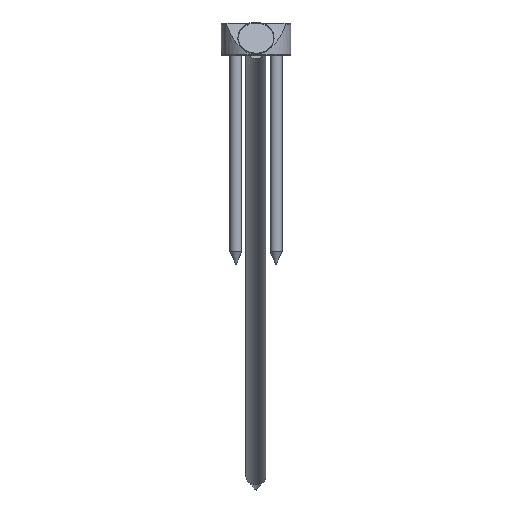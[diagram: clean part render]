
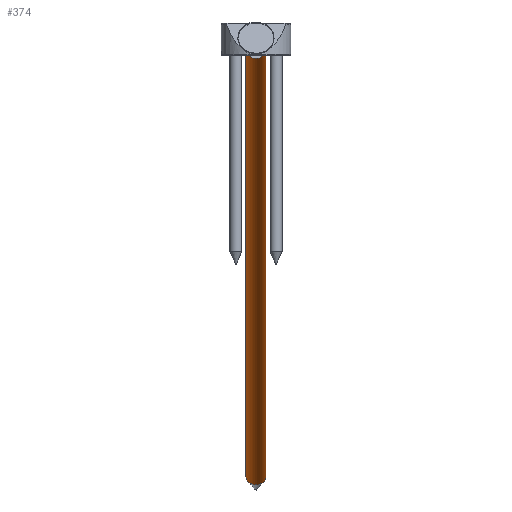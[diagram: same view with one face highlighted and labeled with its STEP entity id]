
A CAD part, front view. The second image highlights one B-rep face of the part: STEP entity #374.
In plain terms, the highlighted cylindrical face has radius 5 mm (diameter 10 mm), a full revolution.
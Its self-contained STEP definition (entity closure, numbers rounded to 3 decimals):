
#59=CYLINDRICAL_SURFACE('',#464,5.);
#132=ORIENTED_EDGE('',*,*,#169,.T.);
#133=ORIENTED_EDGE('',*,*,#168,.F.);
#168=EDGE_CURVE('',#199,#199,#226,.T.);
#169=EDGE_CURVE('',#200,#200,#227,.T.);
#199=VERTEX_POINT('',#700);
#200=VERTEX_POINT('',#703);
#226=CIRCLE('',#463,5.);
#227=CIRCLE('',#465,5.);
#279=EDGE_LOOP('',(#132));
#280=EDGE_LOOP('',(#133));
#334=FACE_BOUND('',#279,.T.);
#335=FACE_BOUND('',#280,.T.);
#374=ADVANCED_FACE('',(#334,#335),#59,.T.);
#463=AXIS2_PLACEMENT_3D('',#699,#584,#585);
#464=AXIS2_PLACEMENT_3D('',#701,#586,#587);
#465=AXIS2_PLACEMENT_3D('',#702,#588,#589);
#584=DIRECTION('',(0.,1.,0.));
#585=DIRECTION('',(0.,0.,1.));
#586=DIRECTION('',(0.,1.,0.));
#587=DIRECTION('',(0.,0.,1.));
#588=DIRECTION('',(0.,1.,0.));
#589=DIRECTION('',(0.,0.,1.));
#699=CARTESIAN_POINT('',(0.,42.,0.));
#700=CARTESIAN_POINT('',(0.,42.,5.));
#701=CARTESIAN_POINT('',(0.,54.,0.));
#702=CARTESIAN_POINT('',(0.,-383.,0.));
#703=CARTESIAN_POINT('',(0.,-383.,5.));
